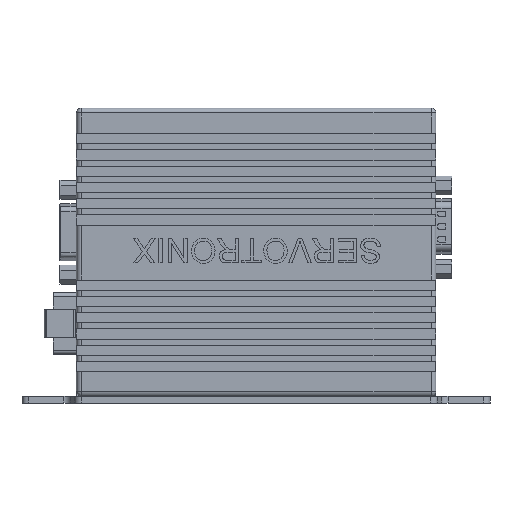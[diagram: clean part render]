
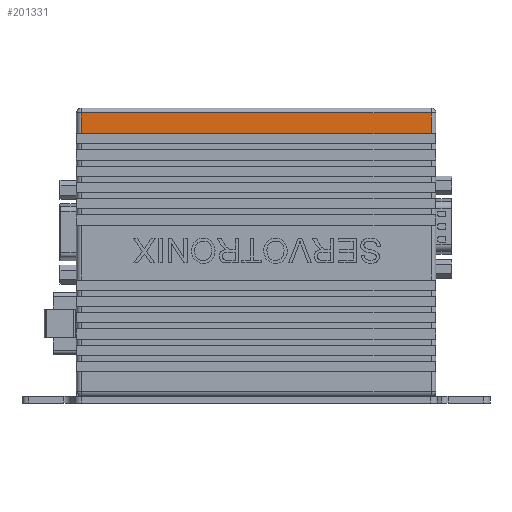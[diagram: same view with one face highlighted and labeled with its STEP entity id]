
A CAD part, front view. The second image highlights one B-rep face of the part: STEP entity #201331.
In plain terms, the highlighted planar face has unit normal (0, -1, 0).
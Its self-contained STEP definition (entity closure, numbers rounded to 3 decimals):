
#16197 = EDGE_CURVE ( 'NONE', #75184, #77272, #172427, .T. ) ;
#16208 = EDGE_CURVE ( 'NONE', #76282, #75184, #172453, .T. ) ;
#16212 = EDGE_CURVE ( 'NONE', #75949, #76282, #172458, .T. ) ;
#16215 = EDGE_CURVE ( 'NONE', #77272, #75949, #172462, .T. ) ;
#75184 = VERTEX_POINT ( 'NONE', #107858 ) ;
#75949 = VERTEX_POINT ( 'NONE', #117787 ) ;
#76282 = VERTEX_POINT ( 'NONE', #118145 ) ;
#77272 = VERTEX_POINT ( 'NONE', #121685 ) ;
#84379 = AXIS2_PLACEMENT_3D ( 'NONE', #96325, #96331, #96332 ) ;
#96322 = PLANE ( 'NONE',  #84379 ) ;
#96325 = CARTESIAN_POINT ( 'NONE',  ( 0., 0., -85. ) ) ;
#96331 = DIRECTION ( 'NONE',  ( 0., -1., 0. ) ) ;
#96332 = DIRECTION ( 'NONE',  ( 0., 0., -1. ) ) ;
#96974 = FACE_OUTER_BOUND ( 'NONE', #171141, .T. ) ;
#107858 = CARTESIAN_POINT ( 'NONE',  ( 1.4, 0., -7.5 ) ) ;
#117787 = CARTESIAN_POINT ( 'NONE',  ( 104.6, 0., -1.4 ) ) ;
#118145 = CARTESIAN_POINT ( 'NONE',  ( 1.4, 0., -1.4 ) ) ;
#121685 = CARTESIAN_POINT ( 'NONE',  ( 104.6, 0., -7.5 ) ) ;
#131541 = ORIENTED_EDGE ( 'NONE', *, *, #16215, .T. ) ;
#131544 = ORIENTED_EDGE ( 'NONE', *, *, #16208, .T. ) ;
#131550 = ORIENTED_EDGE ( 'NONE', *, *, #16197, .T. ) ;
#131569 = ORIENTED_EDGE ( 'NONE', *, *, #16212, .T. ) ;
#171141 = EDGE_LOOP ( 'NONE', ( #131569, #131544, #131550, #131541 ) ) ;
#172427 = LINE ( 'NONE', #213668, #172438 ) ;
#172438 = VECTOR ( 'NONE', #214028, 1000. ) ;
#172453 = LINE ( 'NONE', #213392, #172456 ) ;
#172456 = VECTOR ( 'NONE', #214059, 1000. ) ;
#172458 = LINE ( 'NONE', #213663, #172460 ) ;
#172460 = VECTOR ( 'NONE', #214040, 1000. ) ;
#172462 = LINE ( 'NONE', #213970, #172464 ) ;
#172464 = VECTOR ( 'NONE', #214033, 1000. ) ;
#201331 = ADVANCED_FACE ( 'NONE', ( #96974 ), #96322, .T. ) ;
#213392 = CARTESIAN_POINT ( 'NONE',  ( 1.4, 0., -7.5 ) ) ;
#213663 = CARTESIAN_POINT ( 'NONE',  ( 0., 0., -1.4 ) ) ;
#213668 = CARTESIAN_POINT ( 'NONE',  ( 0., 0., -7.5 ) ) ;
#213970 = CARTESIAN_POINT ( 'NONE',  ( 104.6, 0., 0. ) ) ;
#214028 = DIRECTION ( 'NONE',  ( 1., 0., 0. ) ) ;
#214033 = DIRECTION ( 'NONE',  ( 0., 0., 1. ) ) ;
#214040 = DIRECTION ( 'NONE',  ( -1., 0., 0. ) ) ;
#214059 = DIRECTION ( 'NONE',  ( 0., 0., -1. ) ) ;
